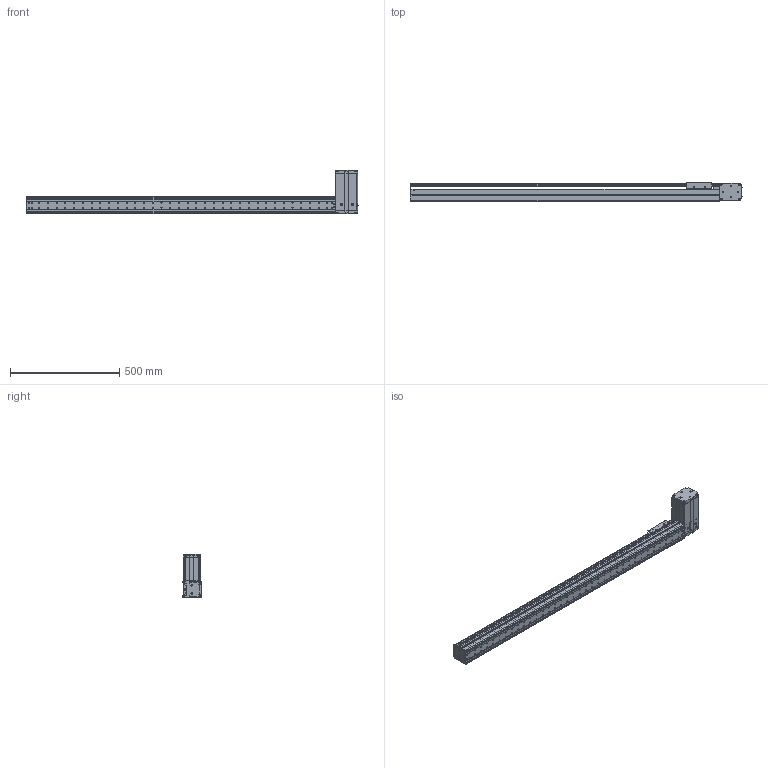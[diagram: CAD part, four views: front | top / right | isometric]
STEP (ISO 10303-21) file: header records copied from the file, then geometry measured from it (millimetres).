
FILE_DESCRIPTION((''),'2;1');
FILE_NAME('BE10_-BR-M_N-C0_IGS_PRT','2017-06-18T',(' '),(''),'PRO/ENGINEER BY PARAMETRIC TECHNOLOGY CORPORATION, 2015030','PRO/ENGINEER BY PARAMETRIC TECHNOLOGY CORPORATION, 2015030','');
FILE_SCHEMA(('CONFIG_CONTROL_DESIGN'));
Products named in the file (1): BE10_-BR-M_N-C0_IGS_PRT
Bounding box: 1520.8 x 85 x 200.22 mm (x, y, z)
Volume: 2162018.2 mm3; surface area: 1460563.7 mm2
Topology: 2 solids, 169 shells, 2253 faces, 6149 edges, 4075 vertices
Faces by surface type: plane 1063, cylinder 1023, cone 111, sphere 28, torus 25, bspline 3
Entity records: 73387 total; most frequent: CARTESIAN_POINT 15060, DIRECTION 12387, ORIENTED_EDGE 11602, EDGE_CURVE 6087, AXIS2_PLACEMENT_3D 4491, VERTEX_POINT 4075, VECTOR 3405, LINE 3405
